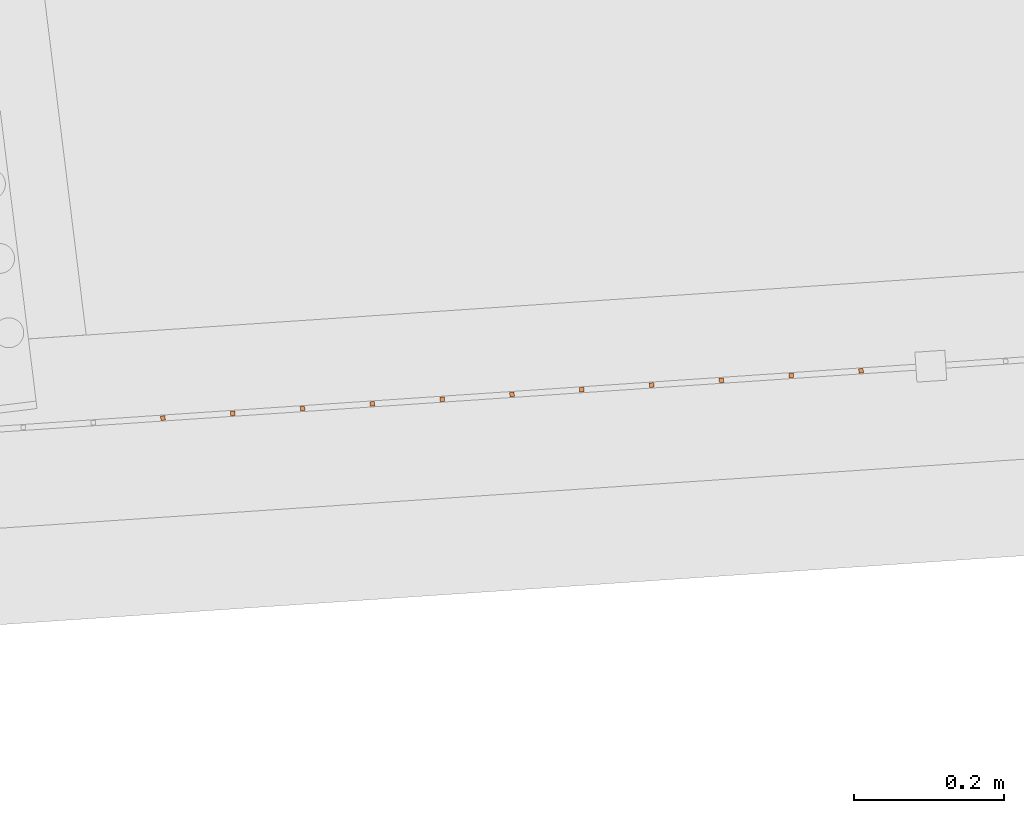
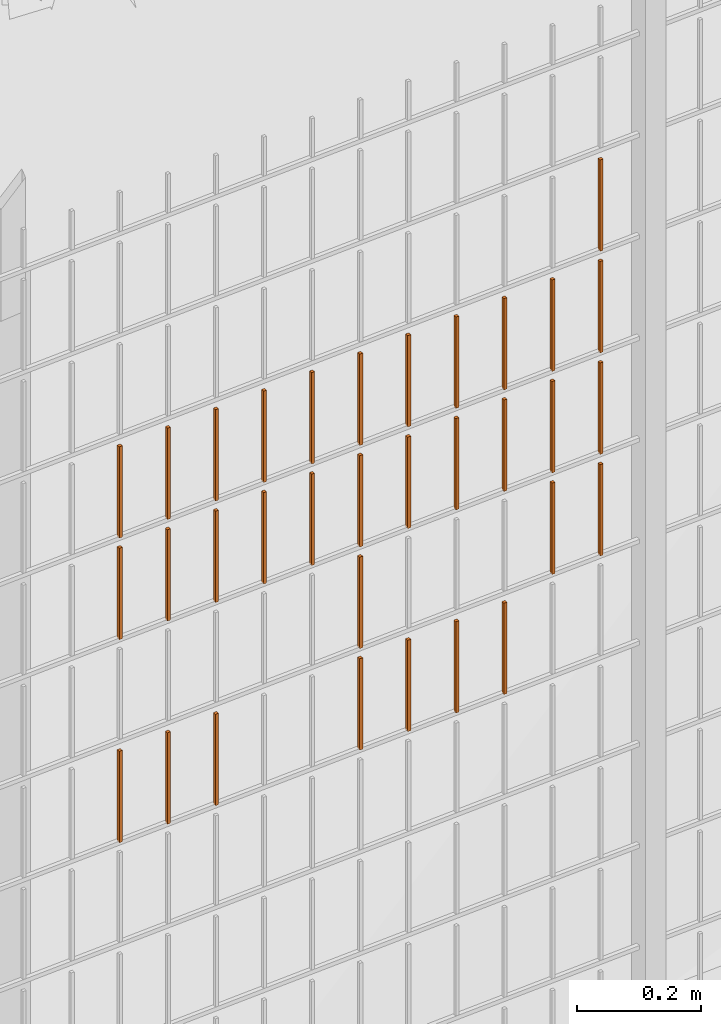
# One storey, part 55 of 1809: 33 proxies, 1 element without a shape of its own.
"""IFC2X3 building model written with IfcOpenShell, lengths in millimetres."""

from ifc_helpers import new_model, entity, si_unit, converted_unit, derived_unit, money_unit, direction, frame, origin_with_axes, place, context, subcontext, project, spatial, faceted_brep, source, transform, mapped, material, type_object, element, aggregate, save


model = new_model("IFC2X3")

# Units and contexts
model_context = context("Model", 3, precision=0.01, world=origin_with_axes(), true_north=direction((0.0, 1.0)))
body_context = subcontext(model_context, "Body", "Model", "MODEL_VIEW")
ifc_project = project(units=[si_unit("LENGTHUNIT", "METRE", prefix="MILLI"), si_unit("AREAUNIT", "SQUARE_METRE"), si_unit("VOLUMEUNIT", "CUBIC_METRE"), converted_unit("PLANEANGLEUNIT", "DEGREE", entity("IfcPlaneAngleMeasure", 0.0174532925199), si_unit("PLANEANGLEUNIT", "RADIAN"), dimensions=[0, 0, 0, 0, 0, 0, 0]), si_unit("SOLIDANGLEUNIT", "STERADIAN"), money_unit("EUR"), converted_unit("TIMEUNIT", "Year", entity("IfcTimeMeasure", 31556926.0), si_unit("TIMEUNIT", "SECOND"), dimensions=[0, 0, 1, 0, 0, 0, 0]), si_unit("MASSUNIT", "GRAM", prefix="KILO"), si_unit("THERMODYNAMICTEMPERATUREUNIT", "DEGREE_CELSIUS"), si_unit("LUMINOUSINTENSITYUNIT", "LUMEN"), si_unit("ENERGYUNIT", "JOULE", prefix="MEGA"), derived_unit("THERMALCONDUCTANCEUNIT", [(si_unit("POWERUNIT", "WATT"), 1), (si_unit("LENGTHUNIT", "METRE"), -1), (si_unit("THERMODYNAMICTEMPERATUREUNIT", "KELVIN"), -1)]), derived_unit("SPECIFICHEATCAPACITYUNIT", [(si_unit("ENERGYUNIT", "JOULE"), 1), (si_unit("MASSUNIT", "GRAM", prefix="KILO"), -1), (si_unit("THERMODYNAMICTEMPERATUREUNIT", "KELVIN"), -1)]), derived_unit("MASSDENSITYUNIT", [(si_unit("MASSUNIT", "GRAM", prefix="KILO"), 1), (si_unit("VOLUMEUNIT", "CUBIC_METRE"), -1)])], contexts=[model_context])

# Site, building, storey
site_placement = place(None, origin_with_axes())
site = spatial("IfcSite", under=ifc_project, at=site_placement, Name="Politse- ja Piirivalveameti ning Päästeameti ühishoone", CompositionType="ELEMENT")
building_placement = place(site_placement, origin_with_axes())
building = spatial("IfcBuilding", under=site, at=building_placement, Name="Politse- ja Piirivalveameti ning Päästeameti ühishoone", CompositionType="ELEMENT")
storey_placement = place(building_placement, origin_with_axes())
storey = spatial("IfcBuildingStorey", under=building, at=storey_placement, Name="Esimene korrus", CompositionType="ELEMENT", Elevation=0.0)

# Proxies
building_element_proxy_type_1 = type_object("IfcBuildingElementProxyType", Name="Railing Type", PredefinedType="NOTDEFINED")
proxy_1_placement = place(storey_placement, frame((89252.001212, -29183.4766571, 203.661247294), z_axis=(0.0, 0.0, 1.0), x_axis=(1.0, 0.0, 0.0)))
proxy_1 = element("IfcBuildingElementProxy", 1, at=proxy_1_placement, inside=storey, type_object=building_element_proxy_type_1, Name="PIIRDEAED")
ifc_material = material(Name="ET-03_Raud")
building_element_proxy_type_2 = type_object("IfcBuildingElementProxyType", Name="IfcBuildingElementProxy", PredefinedType="NOTDEFINED")
shared_shape_1 = source(origin_with_axes(), body_context, "Body", "Brep", [
    faceted_brep([(3.0, 3.0, -0.000752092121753), (-3.0, 3.0, -0.000752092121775), (-3.0, 3.0, 179.99926046), (3.0, 3.0, 179.99926046), (3.0, -3.0, 0.000752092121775), (-3.0, -3.0, 0.000752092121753), (-3.0, -3.0, 180.000764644), (3.0, -3.0, 180.000764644)], [[[0, 1, 2, 3]], [[0, 4, 5, 1]], [[1, 5, 6, 2]], [[3, 2, 6, 7]], [[4, 0, 3, 7]], [[5, 4, 7, 6]]]),
])
proxy_2_placement = place(proxy_1_placement, frame((-107641.924811, -24568.5805566, 1200.18734701), z_axis=(0.0, 0.0, 1.0), x_axis=(1.0, 0.0, 0.0)))
proxy_2 = element("IfcBuildingElementProxy", 2, at=proxy_2_placement, type_object=building_element_proxy_type_2, material=ifc_material, Name="BALUSTER - 001", context=body_context, shape_type="MappedRepresentation", body=[
    mapped(shared_shape_1, transform((0.0, 0.0, 0.0), x_axis=(-0.0673926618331, 0.997726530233, 0.0), y_axis=(-0.997726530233, -0.0673926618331, 0.0), z_axis=(0.0, 0.0, 1.0))),
])
shared_shape_2 = source(origin_with_axes(), body_context, "Body", "Brep", [
    faceted_brep([(3.0, 3.0, -0.000752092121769), (-3.0, 3.0, -0.00075209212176), (-3.00000000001, 3.0, 179.99926046), (2.99999999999, 3.0, 179.99926046), (3.0, -3.0, 0.00075209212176), (-3.0, -3.0, 0.000752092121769), (-3.00000000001, -3.0, 180.000764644), (2.99999999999, -3.0, 180.000764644)], [[[0, 1, 2, 3]], [[0, 4, 5, 1]], [[1, 5, 6, 2]], [[3, 2, 6, 7]], [[4, 0, 3, 7]], [[5, 4, 7, 6]]]),
])
proxy_3_placement = place(proxy_1_placement, frame((-107175.890793, -24537.1017174, 1000.30444674), z_axis=(0.0, 0.0, 1.0), x_axis=(1.0, 0.0, 0.0)))
proxy_3 = element("IfcBuildingElementProxy", 3, at=proxy_3_placement, type_object=building_element_proxy_type_2, material=ifc_material, Name="BALUSTER - 001", context=body_context, shape_type="MappedRepresentation", body=[
    mapped(shared_shape_2, transform((0.0, 0.0, 0.0), x_axis=(-0.0673926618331, 0.997726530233, 0.0), y_axis=(-0.997726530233, -0.0673926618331, 0.0), z_axis=(0.0, 0.0, 1.0))),
])
shared_shape_3 = source(origin_with_axes(), body_context, "Body", "Brep", [
    faceted_brep([(3.0, 3.0, -0.000752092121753), (-3.0, 3.0, -0.000752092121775), (-3.0, 3.0, 179.99926046), (3.0, 3.0, 179.99926046), (3.0, -3.0, 0.000752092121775), (-3.0, -3.0, 0.000752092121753), (-3.0, -3.0, 180.000764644), (3.0, -3.0, 180.000764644)], [[[0, 1, 2, 3]], [[0, 4, 5, 1]], [[1, 5, 6, 2]], [[3, 2, 6, 7]], [[4, 0, 3, 7]], [[5, 4, 7, 6]]]),
])
proxy_4_placement = place(proxy_1_placement, frame((-107641.924811, -24568.5805566, 800.187347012), z_axis=(0.0, 0.0, 1.0), x_axis=(1.0, 0.0, 0.0)))
proxy_4 = element("IfcBuildingElementProxy", 4, at=proxy_4_placement, type_object=building_element_proxy_type_2, material=ifc_material, Name="BALUSTER - 001", context=body_context, shape_type="MappedRepresentation", body=[
    mapped(shared_shape_3, transform((0.0, 0.0, 0.0), x_axis=(-0.0673926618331, 0.997726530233, 0.0), y_axis=(-0.997726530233, -0.0673926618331, 0.0), z_axis=(0.0, 0.0, 1.0))),
])
shared_shape_4 = source(origin_with_axes(), body_context, "Body", "Brep", [
    faceted_brep([(3.0, 3.0, -0.000752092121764), (-3.0, 3.0, -0.000752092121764), (-3.0, 3.0, 179.99926046), (3.0, 3.0, 179.99926046), (3.0, -3.0, 0.000752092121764), (-3.0, -3.0, 0.000752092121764), (-3.0, -3.0, 180.000764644), (3.0, -3.0, 180.000764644)], [[[0, 1, 2, 3]], [[0, 4, 5, 1]], [[1, 5, 6, 2]], [[3, 2, 6, 7]], [[4, 0, 3, 7]], [[5, 4, 7, 6]]]),
])
proxy_5_placement = place(proxy_1_placement, frame((-107641.924811, -24568.5805566, 1400.18734701), z_axis=(0.0, 0.0, 1.0), x_axis=(1.0, 0.0, 0.0)))
proxy_5 = element("IfcBuildingElementProxy", 5, at=proxy_5_placement, type_object=building_element_proxy_type_2, material=ifc_material, Name="BALUSTER - 001", context=body_context, shape_type="MappedRepresentation", body=[
    mapped(shared_shape_4, transform((0.0, 0.0, 0.0), x_axis=(-0.0673926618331, 0.997726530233, 0.0), y_axis=(-0.997726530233, -0.0673926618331, 0.0), z_axis=(0.0, 0.0, 1.0))),
])
shared_shape_5 = source(origin_with_axes(), body_context, "Body", "Brep", [
    faceted_brep([(3.0, 3.0, -0.000752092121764), (-3.0, 3.0, -0.000752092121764), (-3.0, 3.0, 179.99926046), (3.0, 3.0, 179.99926046), (3.0, -3.0, 0.000752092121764), (-3.0, -3.0, 0.000752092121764), (-3.0, -3.0, 180.000764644), (3.0, -3.0, 180.000764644)], [[[0, 1, 2, 3]], [[0, 4, 5, 1]], [[1, 5, 6, 2]], [[3, 2, 6, 7]], [[4, 0, 3, 7]], [[5, 4, 7, 6]]]),
])
proxy_6_placement = place(proxy_1_placement, frame((-107828.338419, -24581.1720923, 1200.14050712), z_axis=(0.0, 0.0, 1.0), x_axis=(1.0, 0.0, 0.0)))
proxy_6 = element("IfcBuildingElementProxy", 6, at=proxy_6_placement, type_object=building_element_proxy_type_2, material=ifc_material, Name="BALUSTER - 001", context=body_context, shape_type="MappedRepresentation", body=[
    mapped(shared_shape_5, transform((0.0, 0.0, 0.0), x_axis=(-0.0673926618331, 0.997726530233, 0.0), y_axis=(-0.997726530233, -0.0673926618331, 0.0), z_axis=(0.0, 0.0, 1.0))),
])
shared_shape_6 = source(origin_with_axes(), body_context, "Body", "Brep", [
    faceted_brep([(3.0, 3.0, -0.000752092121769), (-3.0, 3.0, -0.000752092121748), (-3.0, 3.0, 179.99926046), (3.0, 3.0, 179.99926046), (3.0, -3.0, 0.000752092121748), (-3.0, -3.0, 0.000752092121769), (-3.0, -3.0, 180.000764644), (3.0, -3.0, 180.000764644)], [[[0, 1, 2, 3]], [[0, 4, 5, 1]], [[1, 5, 6, 2]], [[3, 2, 6, 7]], [[4, 0, 3, 7]], [[5, 4, 7, 6]]]),
])
proxy_7_placement = place(proxy_1_placement, frame((-107362.3044, -24549.6932531, 1200.25760685), z_axis=(0.0, 0.0, 1.0), x_axis=(1.0, 0.0, 0.0)))
proxy_7 = element("IfcBuildingElementProxy", 7, at=proxy_7_placement, type_object=building_element_proxy_type_2, material=ifc_material, Name="BALUSTER - 001", context=body_context, shape_type="MappedRepresentation", body=[
    mapped(shared_shape_6, transform((0.0, 0.0, 0.0), x_axis=(-0.0673926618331, 0.997726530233, 0.0), y_axis=(-0.997726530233, -0.0673926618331, 0.0), z_axis=(0.0, 0.0, 1.0))),
])
shared_shape_7 = source(origin_with_axes(), body_context, "Body", "Brep", [
    faceted_brep([(3.0, 3.0, -0.000752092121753), (-3.0, 3.0, -0.000752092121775), (-3.0, 3.0, 179.99926046), (3.0, 3.0, 179.99926046), (3.0, -3.0, 0.000752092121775), (-3.0, -3.0, 0.000752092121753), (-3.0, -3.0, 180.000764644), (3.0, -3.0, 180.000764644)], [[[0, 1, 2, 3]], [[0, 4, 5, 1]], [[1, 5, 6, 2]], [[3, 2, 6, 7]], [[4, 0, 3, 7]], [[5, 4, 7, 6]]]),
])
proxy_8_placement = place(proxy_1_placement, frame((-107921.545222, -24587.4678602, 800.117087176), z_axis=(0.0, 0.0, 1.0), x_axis=(1.0, 0.0, 0.0)))
proxy_8 = element("IfcBuildingElementProxy", 8, at=proxy_8_placement, type_object=building_element_proxy_type_2, material=ifc_material, Name="BALUSTER - 001", context=body_context, shape_type="MappedRepresentation", body=[
    mapped(shared_shape_7, transform((0.0, 0.0, 0.0), x_axis=(-0.0673926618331, 0.997726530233, 0.0), y_axis=(-0.997726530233, -0.0673926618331, 0.0), z_axis=(0.0, 0.0, 1.0))),
])
shared_shape_8 = source(origin_with_axes(), body_context, "Body", "Brep", [
    faceted_brep([(3.0, 3.0, -0.000752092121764), (-3.0, 3.0, -0.000752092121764), (-3.0, 3.0, 179.99926046), (3.0, 3.0, 179.99926046), (3.0, -3.0, 0.000752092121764), (-3.0, -3.0, 0.000752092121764), (-3.0, -3.0, 180.000764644), (3.0, -3.0, 180.000764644)], [[[0, 1, 2, 3]], [[0, 4, 5, 1]], [[1, 5, 6, 2]], [[3, 2, 6, 7]], [[4, 0, 3, 7]], [[5, 4, 7, 6]]]),
])
proxy_9_placement = place(proxy_1_placement, frame((-108014.752026, -24593.763628, 1200.09366723), z_axis=(0.0, 0.0, 1.0), x_axis=(1.0, 0.0, 0.0)))
proxy_9 = element("IfcBuildingElementProxy", 9, at=proxy_9_placement, type_object=building_element_proxy_type_2, material=ifc_material, Name="BALUSTER - 001", context=body_context, shape_type="MappedRepresentation", body=[
    mapped(shared_shape_8, transform((0.0, 0.0, 0.0), x_axis=(-0.0673926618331, 0.997726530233, 0.0), y_axis=(-0.997726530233, -0.0673926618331, 0.0), z_axis=(0.0, 0.0, 1.0))),
])
shared_shape_9 = source(origin_with_axes(), body_context, "Body", "Brep", [
    faceted_brep([(3.0, 3.0, -0.000752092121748), (-3.0, 3.0, -0.00075209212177), (-3.0, 3.0, 179.99926046), (3.0, 3.0, 179.99926046), (3.0, -3.0, 0.00075209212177), (-3.0, -3.0, 0.000752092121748), (-3.0, -3.0, 180.000764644), (3.0, -3.0, 180.000764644)], [[[0, 1, 2, 3]], [[0, 4, 5, 1]], [[1, 5, 6, 2]], [[3, 2, 6, 7]], [[4, 0, 3, 7]], [[5, 4, 7, 6]]]),
])
proxy_10_placement = place(proxy_1_placement, frame((-107921.545222, -24587.4678602, 1200.11708718), z_axis=(0.0, 0.0, 1.0), x_axis=(1.0, 0.0, 0.0)))
proxy_10 = element("IfcBuildingElementProxy", 10, at=proxy_10_placement, type_object=building_element_proxy_type_2, material=ifc_material, Name="BALUSTER - 001", context=body_context, shape_type="MappedRepresentation", body=[
    mapped(shared_shape_9, transform((0.0, 0.0, 0.0), x_axis=(-0.0673926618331, 0.997726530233, 0.0), y_axis=(-0.997726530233, -0.0673926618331, 0.0), z_axis=(0.0, 0.0, 1.0))),
])
shared_shape_10 = source(origin_with_axes(), body_context, "Body", "Brep", [
    faceted_brep([(3.0, 3.0, -0.000752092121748), (-3.0, 3.0, -0.00075209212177), (-3.0, 3.0, 179.99926046), (3.0, 3.0, 179.99926046), (3.0, -3.0, 0.00075209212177), (-3.0, -3.0, 0.000752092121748), (-3.0, -3.0, 180.000764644), (3.0, -3.0, 180.000764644)], [[[0, 1, 2, 3]], [[0, 4, 5, 1]], [[1, 5, 6, 2]], [[3, 2, 6, 7]], [[4, 0, 3, 7]], [[5, 4, 7, 6]]]),
])
proxy_11_placement = place(proxy_1_placement, frame((-108014.752026, -24593.763628, 800.09366723), z_axis=(0.0, 0.0, 1.0), x_axis=(1.0, 0.0, 0.0)))
proxy_11 = element("IfcBuildingElementProxy", 11, at=proxy_11_placement, type_object=building_element_proxy_type_2, material=ifc_material, Name="BALUSTER - 001", context=body_context, shape_type="MappedRepresentation", body=[
    mapped(shared_shape_10, transform((0.0, 0.0, 0.0), x_axis=(-0.0673926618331, 0.997726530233, 0.0), y_axis=(-0.997726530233, -0.0673926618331, 0.0), z_axis=(0.0, 0.0, 1.0))),
])
shared_shape_11 = source(origin_with_axes(), body_context, "Body", "Brep", [
    faceted_brep([(3.0, 3.0, -0.000752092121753), (-3.0, 3.0, -0.000752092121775), (-3.0, 3.0, 179.99926046), (3.0, 3.0, 179.99926046), (3.0, -3.0, 0.000752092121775), (-3.0, -3.0, 0.000752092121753), (-3.0, -3.0, 180.000764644), (3.0, -3.0, 180.000764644)], [[[0, 1, 2, 3]], [[0, 4, 5, 1]], [[1, 5, 6, 2]], [[3, 2, 6, 7]], [[4, 0, 3, 7]], [[5, 4, 7, 6]]]),
])
proxy_12_placement = place(proxy_1_placement, frame((-107362.3044, -24549.6932531, 800.257606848), z_axis=(0.0, 0.0, 1.0), x_axis=(1.0, 0.0, 0.0)))
proxy_12 = element("IfcBuildingElementProxy", 12, at=proxy_12_placement, type_object=building_element_proxy_type_2, material=ifc_material, Name="BALUSTER - 001", context=body_context, shape_type="MappedRepresentation", body=[
    mapped(shared_shape_11, transform((0.0, 0.0, 0.0), x_axis=(-0.0673926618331, 0.997726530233, 0.0), y_axis=(-0.997726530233, -0.0673926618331, 0.0), z_axis=(0.0, 0.0, 1.0))),
])
proxy_13_placement = place(proxy_1_placement, frame((-107175.890793, -24537.1017174, 1200.30444674), z_axis=(0.0, 0.0, 1.0), x_axis=(1.0, 0.0, 0.0)))
proxy_13 = element("IfcBuildingElementProxy", 13, at=proxy_13_placement, type_object=building_element_proxy_type_2, material=ifc_material, Name="BALUSTER - 001", context=body_context, shape_type="MappedRepresentation", body=[
    mapped(shared_shape_11, transform((0.0, 0.0, 0.0), x_axis=(-0.0673926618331, 0.997726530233, 0.0), y_axis=(-0.997726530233, -0.0673926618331, 0.0), z_axis=(0.0, 0.0, 1.0))),
])
shared_shape_12 = source(origin_with_axes(), body_context, "Body", "Brep", [
    faceted_brep([(3.0, 3.0, -0.000752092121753), (-3.0, 3.0, -0.000752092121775), (-3.0, 3.0, 179.99926046), (3.0, 3.0, 179.99926046), (3.0, -3.0, 0.000752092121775), (-3.0, -3.0, 0.000752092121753), (-3.0, -3.0, 180.000764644), (3.0, -3.0, 180.000764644)], [[[0, 1, 2, 3]], [[0, 4, 5, 1]], [[1, 5, 6, 2]], [[3, 2, 6, 7]], [[4, 0, 3, 7]], [[5, 4, 7, 6]]]),
])
proxy_14_placement = place(proxy_1_placement, frame((-108107.95883, -24600.0593958, 1200.07024728), z_axis=(0.0, 0.0, 1.0), x_axis=(1.0, 0.0, 0.0)))
proxy_14 = element("IfcBuildingElementProxy", 14, at=proxy_14_placement, type_object=building_element_proxy_type_2, material=ifc_material, Name="BALUSTER - 001", context=body_context, shape_type="MappedRepresentation", body=[
    mapped(shared_shape_12, transform((0.0, 0.0, 0.0), x_axis=(-0.0673926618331, 0.997726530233, 0.0), y_axis=(-0.997726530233, -0.0673926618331, 0.0), z_axis=(0.0, 0.0, 1.0))),
])
shared_shape_13 = source(origin_with_axes(), body_context, "Body", "Brep", [
    faceted_brep([(3.0, 3.0, -0.000752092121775), (-3.0, 3.0, -0.000752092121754), (-3.0, 3.0, 179.99926046), (3.0, 3.0, 179.99926046), (3.0, -3.0, 0.000752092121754), (-3.0, -3.0, 0.000752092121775), (-3.0, -3.0, 180.000764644), (3.0, -3.0, 180.000764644)], [[[0, 1, 2, 3]], [[0, 4, 5, 1]], [[1, 5, 6, 2]], [[3, 2, 6, 7]], [[4, 0, 3, 7]], [[5, 4, 7, 6]]]),
])
proxy_15_placement = place(proxy_1_placement, frame((-107548.718008, -24562.2847888, 800.210766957), z_axis=(0.0, 0.0, 1.0), x_axis=(1.0, 0.0, 0.0)))
proxy_15 = element("IfcBuildingElementProxy", 15, at=proxy_15_placement, type_object=building_element_proxy_type_2, material=ifc_material, Name="BALUSTER - 001", context=body_context, shape_type="MappedRepresentation", body=[
    mapped(shared_shape_13, transform((0.0, 0.0, 0.0), x_axis=(-0.0673926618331, 0.997726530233, 0.0), y_axis=(-0.997726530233, -0.0673926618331, 0.0), z_axis=(0.0, 0.0, 1.0))),
])
shared_shape_14 = source(origin_with_axes(), body_context, "Body", "Brep", [
    faceted_brep([(3.0, 3.0, -0.000752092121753), (-3.0, 3.0, -0.000752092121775), (-3.0, 3.0, 179.99926046), (3.0, 3.0, 179.99926046), (3.0, -3.0, 0.000752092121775), (-3.0, -3.0, 0.000752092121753), (-3.0, -3.0, 180.000764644), (3.0, -3.0, 180.000764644)], [[[0, 1, 2, 3]], [[0, 4, 5, 1]], [[1, 5, 6, 2]], [[3, 2, 6, 7]], [[4, 0, 3, 7]], [[5, 4, 7, 6]]]),
])
proxy_16_placement = place(proxy_1_placement, frame((-107175.890793, -24537.1017174, 1400.30444674), z_axis=(0.0, 0.0, 1.0), x_axis=(1.0, 0.0, 0.0)))
proxy_16 = element("IfcBuildingElementProxy", 16, at=proxy_16_placement, type_object=building_element_proxy_type_2, material=ifc_material, Name="BALUSTER - 001", context=body_context, shape_type="MappedRepresentation", body=[
    mapped(shared_shape_14, transform((0.0, 0.0, 0.0), x_axis=(-0.0673926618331, 0.997726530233, 0.0), y_axis=(-0.997726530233, -0.0673926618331, 0.0), z_axis=(0.0, 0.0, 1.0))),
])
proxy_17_placement = place(proxy_1_placement, frame((-107828.338419, -24581.1720923, 1400.14050712), z_axis=(0.0, 0.0, 1.0), x_axis=(1.0, 0.0, 0.0)))
proxy_17 = element("IfcBuildingElementProxy", 17, at=proxy_17_placement, type_object=building_element_proxy_type_2, material=ifc_material, Name="BALUSTER - 001", context=body_context, shape_type="MappedRepresentation", body=[
    mapped(shared_shape_14, transform((0.0, 0.0, 0.0), x_axis=(-0.0673926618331, 0.997726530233, 0.0), y_axis=(-0.997726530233, -0.0673926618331, 0.0), z_axis=(0.0, 0.0, 1.0))),
])
proxy_18_placement = place(proxy_1_placement, frame((-107175.890793, -24537.1017174, 1600.30444674), z_axis=(0.0, 0.0, 1.0), x_axis=(1.0, 0.0, 0.0)))
proxy_18 = element("IfcBuildingElementProxy", 18, at=proxy_18_placement, type_object=building_element_proxy_type_2, material=ifc_material, Name="BALUSTER - 001", context=body_context, shape_type="MappedRepresentation", body=[
    mapped(shared_shape_14, transform((0.0, 0.0, 0.0), x_axis=(-0.0673926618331, 0.997726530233, 0.0), y_axis=(-0.997726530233, -0.0673926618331, 0.0), z_axis=(0.0, 0.0, 1.0))),
])
shared_shape_15 = source(origin_with_axes(), body_context, "Body", "Brep", [
    faceted_brep([(3.0, 3.0, -0.000752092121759), (-3.0, 3.0, -0.000752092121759), (-3.0, 3.0, 179.99926046), (3.0, 3.0, 179.99926046), (3.0, -3.0, 0.000752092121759), (-3.0, -3.0, 0.000752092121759), (-3.0, -3.0, 180.000764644), (3.0, -3.0, 180.000764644)], [[[0, 1, 2, 3]], [[0, 4, 5, 1]], [[1, 5, 6, 2]], [[3, 2, 6, 7]], [[4, 0, 3, 7]], [[5, 4, 7, 6]]]),
])
proxy_19_placement = place(proxy_1_placement, frame((-107921.545222, -24587.4678602, 1400.11708718), z_axis=(0.0, 0.0, 1.0), x_axis=(1.0, 0.0, 0.0)))
proxy_19 = element("IfcBuildingElementProxy", 19, at=proxy_19_placement, type_object=building_element_proxy_type_2, material=ifc_material, Name="BALUSTER - 001", context=body_context, shape_type="MappedRepresentation", body=[
    mapped(shared_shape_15, transform((0.0, 0.0, 0.0), x_axis=(-0.0673926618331, 0.997726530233, 0.0), y_axis=(-0.997726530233, -0.0673926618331, 0.0), z_axis=(0.0, 0.0, 1.0))),
])
proxy_20_placement = place(proxy_1_placement, frame((-108107.95883, -24600.0593958, 1400.07024728), z_axis=(0.0, 0.0, 1.0), x_axis=(1.0, 0.0, 0.0)))
proxy_20 = element("IfcBuildingElementProxy", 20, at=proxy_20_placement, type_object=building_element_proxy_type_2, material=ifc_material, Name="BALUSTER - 001", context=body_context, shape_type="MappedRepresentation", body=[
    mapped(shared_shape_15, transform((0.0, 0.0, 0.0), x_axis=(-0.0673926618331, 0.997726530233, 0.0), y_axis=(-0.997726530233, -0.0673926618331, 0.0), z_axis=(0.0, 0.0, 1.0))),
])
shared_shape_16 = source(origin_with_axes(), body_context, "Body", "Brep", [
    faceted_brep([(3.0, 3.0, -0.000752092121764), (-3.0, 3.0, -0.000752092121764), (-3.0, 3.0, 179.99926046), (3.0, 3.0, 179.99926046), (3.0, -3.0, 0.000752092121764), (-3.0, -3.0, 0.000752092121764), (-3.0, -3.0, 180.000764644), (3.0, -3.0, 180.000764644)], [[[0, 1, 2, 3]], [[0, 4, 5, 1]], [[1, 5, 6, 2]], [[3, 2, 6, 7]], [[4, 0, 3, 7]], [[5, 4, 7, 6]]]),
])
proxy_21_placement = place(proxy_1_placement, frame((-107269.097597, -24543.3974853, 1200.28102679), z_axis=(0.0, 0.0, 1.0), x_axis=(1.0, 0.0, 0.0)))
proxy_21 = element("IfcBuildingElementProxy", 21, at=proxy_21_placement, type_object=building_element_proxy_type_2, material=ifc_material, Name="BALUSTER - 001", context=body_context, shape_type="MappedRepresentation", body=[
    mapped(shared_shape_16, transform((0.0, 0.0, 0.0), x_axis=(-0.0673926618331, 0.997726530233, 0.0), y_axis=(-0.997726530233, -0.0673926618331, 0.0), z_axis=(0.0, 0.0, 1.0))),
])
proxy_22_placement = place(proxy_1_placement, frame((-107735.131615, -24574.8763245, 1200.16392707), z_axis=(0.0, 0.0, 1.0), x_axis=(1.0, 0.0, 0.0)))
proxy_22 = element("IfcBuildingElementProxy", 22, at=proxy_22_placement, type_object=building_element_proxy_type_2, material=ifc_material, Name="BALUSTER - 001", context=body_context, shape_type="MappedRepresentation", body=[
    mapped(shared_shape_16, transform((0.0, 0.0, 0.0), x_axis=(-0.0673926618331, 0.997726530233, 0.0), y_axis=(-0.997726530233, -0.0673926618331, 0.0), z_axis=(0.0, 0.0, 1.0))),
])
shared_shape_17 = source(origin_with_axes(), body_context, "Body", "Brep", [
    faceted_brep([(3.0, 3.0, -0.000752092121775), (-3.0, 3.0, -0.000752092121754), (-3.0, 3.0, 179.99926046), (3.0, 3.0, 179.99926046), (3.0, -3.0, 0.000752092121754), (-3.0, -3.0, 0.000752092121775), (-3.0, -3.0, 180.000764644), (3.0, -3.0, 180.000764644)], [[[0, 1, 2, 3]], [[0, 4, 5, 1]], [[1, 5, 6, 2]], [[3, 2, 6, 7]], [[4, 0, 3, 7]], [[5, 4, 7, 6]]]),
])
proxy_23_placement = place(proxy_1_placement, frame((-107455.511204, -24555.989021, 800.234186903), z_axis=(0.0, 0.0, 1.0), x_axis=(1.0, 0.0, 0.0)))
proxy_23 = element("IfcBuildingElementProxy", 23, at=proxy_23_placement, type_object=building_element_proxy_type_2, material=ifc_material, Name="BALUSTER - 001", context=body_context, shape_type="MappedRepresentation", body=[
    mapped(shared_shape_17, transform((0.0, 0.0, 0.0), x_axis=(-0.0673926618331, 0.997726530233, 0.0), y_axis=(-0.997726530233, -0.0673926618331, 0.0), z_axis=(0.0, 0.0, 1.0))),
])
shared_shape_18 = source(origin_with_axes(), body_context, "Body", "Brep", [
    faceted_brep([(3.0, 3.0, -0.000752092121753), (-3.0, 3.0, -0.000752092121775), (-3.0, 3.0, 179.99926046), (3.0, 3.0, 179.99926046), (3.0, -3.0, 0.000752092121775), (-3.0, -3.0, 0.000752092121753), (-3.0, -3.0, 180.000764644), (3.0, -3.0, 180.000764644)], [[[0, 1, 2, 3]], [[0, 4, 5, 1]], [[1, 5, 6, 2]], [[3, 2, 6, 7]], [[4, 0, 3, 7]], [[5, 4, 7, 6]]]),
])
proxy_24_placement = place(proxy_1_placement, frame((-108107.95883, -24600.0593958, 800.070247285), z_axis=(0.0, 0.0, 1.0), x_axis=(1.0, 0.0, 0.0)))
proxy_24 = element("IfcBuildingElementProxy", 24, at=proxy_24_placement, type_object=building_element_proxy_type_2, material=ifc_material, Name="BALUSTER - 001", context=body_context, shape_type="MappedRepresentation", body=[
    mapped(shared_shape_18, transform((0.0, 0.0, 0.0), x_axis=(-0.0673926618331, 0.997726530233, 0.0), y_axis=(-0.997726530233, -0.0673926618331, 0.0), z_axis=(0.0, 0.0, 1.0))),
])
shared_shape_19 = source(origin_with_axes(), body_context, "Body", "Brep", [
    faceted_brep([(3.0, 3.0, -0.000752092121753), (-3.0, 3.0, -0.000752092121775), (-3.0, 3.0, 179.99926046), (3.0, 3.0, 179.99926046), (3.0, -3.0, 0.000752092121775), (-3.0, -3.0, 0.000752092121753), (-3.0, -3.0, 180.000764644), (3.0, -3.0, 180.000764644)], [[[0, 1, 2, 3]], [[0, 4, 5, 1]], [[1, 5, 6, 2]], [[3, 2, 6, 7]], [[4, 0, 3, 7]], [[5, 4, 7, 6]]]),
])
proxy_25_placement = place(proxy_1_placement, frame((-107548.718008, -24562.2847888, 1200.21076696), z_axis=(0.0, 0.0, 1.0), x_axis=(1.0, 0.0, 0.0)))
proxy_25 = element("IfcBuildingElementProxy", 25, at=proxy_25_placement, type_object=building_element_proxy_type_2, material=ifc_material, Name="BALUSTER - 001", context=body_context, shape_type="MappedRepresentation", body=[
    mapped(shared_shape_19, transform((0.0, 0.0, 0.0), x_axis=(-0.0673926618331, 0.997726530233, 0.0), y_axis=(-0.997726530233, -0.0673926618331, 0.0), z_axis=(0.0, 0.0, 1.0))),
])
shared_shape_20 = source(origin_with_axes(), body_context, "Body", "Brep", [
    faceted_brep([(3.0, 3.0, -0.000752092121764), (-3.0, 3.0, -0.000752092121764), (-3.0, 3.0, 179.99926046), (3.0, 3.0, 179.99926046), (3.0, -3.0, 0.000752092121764), (-3.0, -3.0, 0.000752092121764), (-3.0, -3.0, 180.000764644), (3.0, -3.0, 180.000764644)], [[[0, 1, 2, 3]], [[0, 4, 5, 1]], [[1, 5, 6, 2]], [[3, 2, 6, 7]], [[4, 0, 3, 7]], [[5, 4, 7, 6]]]),
])
proxy_26_placement = place(proxy_1_placement, frame((-107269.097597, -24543.3974853, 1400.28102679), z_axis=(0.0, 0.0, 1.0), x_axis=(1.0, 0.0, 0.0)))
proxy_26 = element("IfcBuildingElementProxy", 26, at=proxy_26_placement, type_object=building_element_proxy_type_2, material=ifc_material, Name="BALUSTER - 001", context=body_context, shape_type="MappedRepresentation", body=[
    mapped(shared_shape_20, transform((0.0, 0.0, 0.0), x_axis=(-0.0673926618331, 0.997726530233, 0.0), y_axis=(-0.997726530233, -0.0673926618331, 0.0), z_axis=(0.0, 0.0, 1.0))),
])
shared_shape_21 = source(origin_with_axes(), body_context, "Body", "Brep", [
    faceted_brep([(3.0, 3.0, -0.000752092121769), (-3.0, 3.0, -0.000752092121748), (-3.0, 3.0, 179.99926046), (3.0, 3.0, 179.99926046), (3.0, -3.0, 0.000752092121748), (-3.0, -3.0, 0.000752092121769), (-3.0, -3.0, 180.000764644), (3.0, -3.0, 180.000764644)], [[[0, 1, 2, 3]], [[0, 4, 5, 1]], [[1, 5, 6, 2]], [[3, 2, 6, 7]], [[4, 0, 3, 7]], [[5, 4, 7, 6]]]),
])
proxy_27_placement = place(proxy_1_placement, frame((-107362.3044, -24549.6932531, 1400.25760685), z_axis=(0.0, 0.0, 1.0), x_axis=(1.0, 0.0, 0.0)))
proxy_27 = element("IfcBuildingElementProxy", 27, at=proxy_27_placement, type_object=building_element_proxy_type_2, material=ifc_material, Name="BALUSTER - 001", context=body_context, shape_type="MappedRepresentation", body=[
    mapped(shared_shape_21, transform((0.0, 0.0, 0.0), x_axis=(-0.0673926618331, 0.997726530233, 0.0), y_axis=(-0.997726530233, -0.0673926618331, 0.0), z_axis=(0.0, 0.0, 1.0))),
])
shared_shape_22 = source(origin_with_axes(), body_context, "Body", "Brep", [
    faceted_brep([(3.0, 3.0, -0.000752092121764), (-3.0, 3.0, -0.000752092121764), (-3.0, 3.0, 179.99926046), (3.0, 3.0, 179.99926046), (3.0, -3.0, 0.000752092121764), (-3.0, -3.0, 0.000752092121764), (-3.0, -3.0, 180.000764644), (3.0, -3.0, 180.000764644)], [[[0, 1, 2, 3]], [[0, 4, 5, 1]], [[1, 5, 6, 2]], [[3, 2, 6, 7]], [[4, 0, 3, 7]], [[5, 4, 7, 6]]]),
])
proxy_28_placement = place(proxy_1_placement, frame((-107548.718008, -24562.2847888, 1400.21076696), z_axis=(0.0, 0.0, 1.0), x_axis=(1.0, 0.0, 0.0)))
proxy_28 = element("IfcBuildingElementProxy", 28, at=proxy_28_placement, type_object=building_element_proxy_type_2, material=ifc_material, Name="BALUSTER - 001", context=body_context, shape_type="MappedRepresentation", body=[
    mapped(shared_shape_22, transform((0.0, 0.0, 0.0), x_axis=(-0.0673926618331, 0.997726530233, 0.0), y_axis=(-0.997726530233, -0.0673926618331, 0.0), z_axis=(0.0, 0.0, 1.0))),
])
shared_shape_23 = source(origin_with_axes(), body_context, "Body", "Brep", [
    faceted_brep([(3.0, 3.0, -0.000752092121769), (-3.0, 3.0, -0.000752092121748), (-3.0, 3.0, 179.99926046), (3.0, 3.0, 179.99926046), (3.0, -3.0, 0.000752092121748), (-3.0, -3.0, 0.000752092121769), (-3.0, -3.0, 180.000764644), (3.0, -3.0, 180.000764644)], [[[0, 1, 2, 3]], [[0, 4, 5, 1]], [[1, 5, 6, 2]], [[3, 2, 6, 7]], [[4, 0, 3, 7]], [[5, 4, 7, 6]]]),
])
proxy_29_placement = place(proxy_1_placement, frame((-107455.511204, -24555.989021, 1200.2341869), z_axis=(0.0, 0.0, 1.0), x_axis=(1.0, 0.0, 0.0)))
proxy_29 = element("IfcBuildingElementProxy", 29, at=proxy_29_placement, type_object=building_element_proxy_type_2, material=ifc_material, Name="BALUSTER - 001", context=body_context, shape_type="MappedRepresentation", body=[
    mapped(shared_shape_23, transform((0.0, 0.0, 0.0), x_axis=(-0.0673926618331, 0.997726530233, 0.0), y_axis=(-0.997726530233, -0.0673926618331, 0.0), z_axis=(0.0, 0.0, 1.0))),
])
shared_shape_24 = source(origin_with_axes(), body_context, "Body", "Brep", [
    faceted_brep([(3.0, 3.0, -0.000752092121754), (-3.0, 3.0, -0.000752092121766), (-3.00000000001, 3.00000000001, 179.99926046), (2.99999999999, 3.00000000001, 179.99926046), (3.0, -3.0, 0.000752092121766), (-3.0, -3.0, 0.000752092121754), (-3.00000000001, -2.99999999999, 180.000764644), (2.99999999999, -2.99999999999, 180.000764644)], [[[0, 1, 2, 3]], [[0, 4, 5, 1]], [[1, 5, 6, 2]], [[3, 2, 6, 7]], [[4, 0, 3, 7]], [[5, 4, 7, 6]]]),
])
proxy_30_placement = place(proxy_1_placement, frame((-107269.097597, -24543.3974853, 1000.28102679), z_axis=(0.0, 0.0, 1.0), x_axis=(1.0, 0.0, 0.0)))
proxy_30 = element("IfcBuildingElementProxy", 30, at=proxy_30_placement, type_object=building_element_proxy_type_2, material=ifc_material, Name="BALUSTER - 001", context=body_context, shape_type="MappedRepresentation", body=[
    mapped(shared_shape_24, transform((0.0, 0.0, 0.0), x_axis=(-0.0673926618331, 0.997726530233, 0.0), y_axis=(-0.997726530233, -0.0673926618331, 0.0), z_axis=(0.0, 0.0, 1.0))),
])
shared_shape_25 = source(origin_with_axes(), body_context, "Body", "Brep", [
    faceted_brep([(3.0, 3.0, -0.000752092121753), (-3.0, 3.0, -0.000752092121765), (-3.00000000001, 3.0, 179.99926046), (2.99999999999, 3.0, 179.99926046), (3.0, -3.0, 0.000752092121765), (-3.0, -3.0, 0.000752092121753), (-3.00000000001, -3.0, 180.000764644), (2.99999999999, -3.0, 180.000764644)], [[[0, 1, 2, 3]], [[0, 4, 5, 1]], [[1, 5, 6, 2]], [[3, 2, 6, 7]], [[4, 0, 3, 7]], [[5, 4, 7, 6]]]),
])
proxy_31_placement = place(proxy_1_placement, frame((-107641.924811, -24568.5805566, 1000.18734701), z_axis=(0.0, 0.0, 1.0), x_axis=(1.0, 0.0, 0.0)))
proxy_31 = element("IfcBuildingElementProxy", 31, at=proxy_31_placement, type_object=building_element_proxy_type_2, material=ifc_material, Name="BALUSTER - 001", context=body_context, shape_type="MappedRepresentation", body=[
    mapped(shared_shape_25, transform((0.0, 0.0, 0.0), x_axis=(-0.0673926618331, 0.997726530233, 0.0), y_axis=(-0.997726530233, -0.0673926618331, 0.0), z_axis=(0.0, 0.0, 1.0))),
])
shared_shape_26 = source(origin_with_axes(), body_context, "Body", "Brep", [
    faceted_brep([(3.0, 3.0, -0.000752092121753), (-3.0, 3.0, -0.000752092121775), (-3.0, 3.0, 179.99926046), (3.0, 3.0, 179.99926046), (3.0, -3.0, 0.000752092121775), (-3.0, -3.0, 0.000752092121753), (-3.0, -3.0, 180.000764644), (3.0, -3.0, 180.000764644)], [[[0, 1, 2, 3]], [[0, 4, 5, 1]], [[1, 5, 6, 2]], [[3, 2, 6, 7]], [[4, 0, 3, 7]], [[5, 4, 7, 6]]]),
])
proxy_32_placement = place(proxy_1_placement, frame((-108014.752026, -24593.763628, 1400.09366723), z_axis=(0.0, 0.0, 1.0), x_axis=(1.0, 0.0, 0.0)))
proxy_32 = element("IfcBuildingElementProxy", 32, at=proxy_32_placement, type_object=building_element_proxy_type_2, material=ifc_material, Name="BALUSTER - 001", context=body_context, shape_type="MappedRepresentation", body=[
    mapped(shared_shape_26, transform((0.0, 0.0, 0.0), x_axis=(-0.0673926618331, 0.997726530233, 0.0), y_axis=(-0.997726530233, -0.0673926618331, 0.0), z_axis=(0.0, 0.0, 1.0))),
])
shared_shape_27 = source(origin_with_axes(), body_context, "Body", "Brep", [
    faceted_brep([(3.0, 3.0, -0.000752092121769), (-3.0, 3.0, -0.000752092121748), (-3.0, 3.0, 179.99926046), (3.0, 3.0, 179.99926046), (3.0, -3.0, 0.000752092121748), (-3.0, -3.0, 0.000752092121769), (-3.0, -3.0, 180.000764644), (3.0, -3.0, 180.000764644)], [[[0, 1, 2, 3]], [[0, 4, 5, 1]], [[1, 5, 6, 2]], [[3, 2, 6, 7]], [[4, 0, 3, 7]], [[5, 4, 7, 6]]]),
])
proxy_33_placement = place(proxy_1_placement, frame((-107455.511204, -24555.989021, 1400.2341869), z_axis=(0.0, 0.0, 1.0), x_axis=(1.0, 0.0, 0.0)))
proxy_33 = element("IfcBuildingElementProxy", 33, at=proxy_33_placement, type_object=building_element_proxy_type_2, material=ifc_material, Name="BALUSTER - 001", context=body_context, shape_type="MappedRepresentation", body=[
    mapped(shared_shape_27, transform((0.0, 0.0, 0.0), x_axis=(-0.0673926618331, 0.997726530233, 0.0), y_axis=(-0.997726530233, -0.0673926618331, 0.0), z_axis=(0.0, 0.0, 1.0))),
])
shared_shape_28 = source(origin_with_axes(), body_context, "Body", "Brep", [
    faceted_brep([(3.0, 3.0, -0.000752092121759), (-3.0, 3.0, -0.000752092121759), (-3.0, 3.0, 179.99926046), (3.0, 3.0, 179.99926046), (3.0, -3.0, 0.000752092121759), (-3.0, -3.0, 0.000752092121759), (-3.0, -3.0, 180.000764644), (3.0, -3.0, 180.000764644)], [[[0, 1, 2, 3]], [[0, 4, 5, 1]], [[1, 5, 6, 2]], [[3, 2, 6, 7]], [[4, 0, 3, 7]], [[5, 4, 7, 6]]]),
])
proxy_34_placement = place(proxy_1_placement, frame((-107735.131615, -24574.8763245, 1400.16392707), z_axis=(0.0, 0.0, 1.0), x_axis=(1.0, 0.0, 0.0)))
proxy_34 = element("IfcBuildingElementProxy", 34, at=proxy_34_placement, type_object=building_element_proxy_type_2, material=ifc_material, Name="BALUSTER - 001", context=body_context, shape_type="MappedRepresentation", body=[
    mapped(shared_shape_28, transform((0.0, 0.0, 0.0), x_axis=(-0.0673926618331, 0.997726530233, 0.0), y_axis=(-0.997726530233, -0.0673926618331, 0.0), z_axis=(0.0, 0.0, 1.0))),
])
aggregate(proxy_1, [proxy_12, proxy_23, proxy_15, proxy_4, proxy_8, proxy_11, proxy_24, proxy_3, proxy_30, proxy_31, proxy_13, proxy_21, proxy_7, proxy_29, proxy_25, proxy_2, proxy_22, proxy_6, proxy_10, proxy_9, proxy_14, proxy_16, proxy_26, proxy_27, proxy_33, proxy_28, proxy_5, proxy_34, proxy_17, proxy_19, proxy_32, proxy_20, proxy_18])

save(model, "model.ifc")
